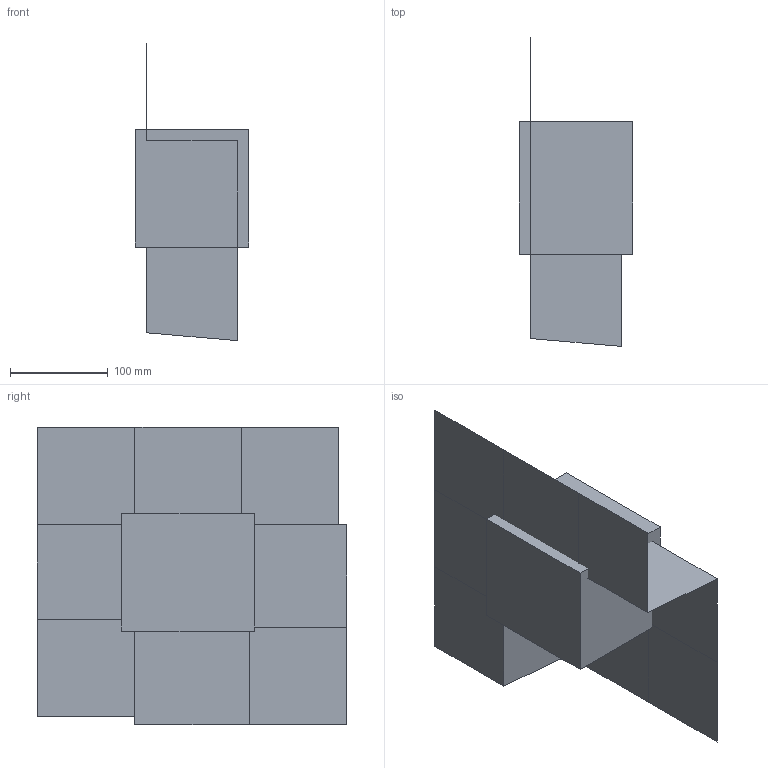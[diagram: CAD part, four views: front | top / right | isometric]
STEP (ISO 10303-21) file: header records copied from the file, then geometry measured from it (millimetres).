
FILE_DESCRIPTION(('CATIA V5 STEP Exchange'),'2;1');
FILE_NAME('C:\_Andres\UNIVERSIDAD\IQS\ASIGNATURAS\DAO\EXF\EXF-15161c\1original\Subirada_Blanco_Ej02-moldes_v26.stp','2016-03-04T15:45:45+00:00',('none'),('none'),'CATIA Version 5 Release 20 SP 1 (IN-10)','CATIA V5 STEP AP203','none');
FILE_SCHEMA(('CONFIG_CONTROL_DESIGN'));
Length unit declared in the file: millimetre
Products named in the file (1): Subirada_Blanco_Ej02-moldes_v26
Bounding box: 116 x 316.92 x 304.92 mm (x, y, z)
Volume: 4036436.3 mm3; surface area: 411143.3 mm2
Topology: 3 solids, 7 shells, 45 faces, 118 edges, 83 vertices
Faces by surface type: plane 41, cylinder 4
Entity records: 1101 total; most frequent: ORIENTED_EDGE 198, CARTESIAN_POINT 179, DIRECTION 147, EDGE_CURVE 83, VECTOR 73, LINE 73, VERTEX_POINT 56, EDGE_LOOP 49
